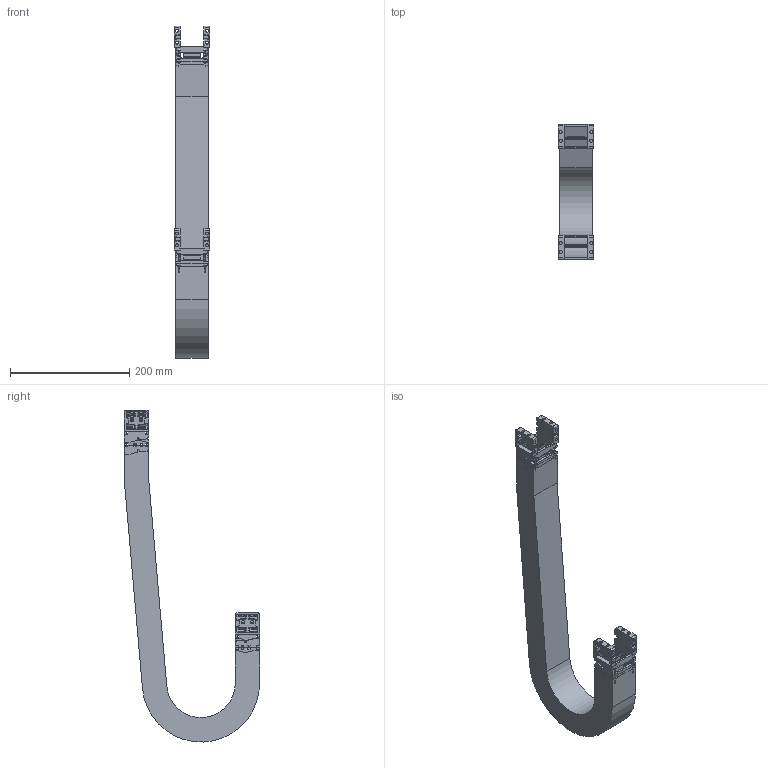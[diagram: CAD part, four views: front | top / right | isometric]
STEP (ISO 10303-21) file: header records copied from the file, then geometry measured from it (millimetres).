
FILE_DESCRIPTION((''),'2;1');
FILE_NAME('KST-30040-075_ASM','2017-12-05T',('KUNI004K'),(''),'PRO/ENGINEER BY PARAMETRIC TECHNOLOGY CORPORATION, 2015200','PRO/ENGINEER BY PARAMETRIC TECHNOLOGY CORPORATION, 2015200','');
FILE_SCHEMA(('AUTOMOTIVE_DESIGN { 1 0 10303 214 1 1 1 1 }'));
Length unit declared in the file: millimetre
Products named in the file (13): 30FBR; 30FBL; 25040C; 30FB_W040_ASM; 30075R; 30075L; 25040H; KST30040-075_1_ASM; KST30040_R75_BODY; 30MBR; 30MBL; 30MB_W040_ASM; KST-30040-075_ASM
Assembly tree (19 placements, depth 3):
  KST-30040-075_ASM
    30FB_W040_ASM
      30FBR
      30FBL
      25040C  x2
    KST30040-075_1_ASM  x2
      30075R
      30075L
      25040C
      25040H
    KST30040_R75_BODY
    30MB_W040_ASM
      30MBR
      30MBL
      25040C  x2
Bounding box: 60 x 227 x 557.21 mm (x, y, z)
Volume: 811142 mm3; surface area: 357015.5 mm2
Topology: 21 solids, 21 shells, 2532 faces, 6950 edges, 4480 vertices
Faces by surface type: plane 1290, cylinder 898, bspline 216, torus 64, sphere 64
Entity records: 70608 total; most frequent: CARTESIAN_POINT 15704, ORIENTED_EDGE 7432, DIRECTION 6608, PRESENTATION_STYLE_ASSIGNMENT 5044, STYLED_ITEM 5044, CURVE_STYLE 3716, EDGE_CURVE 3716, VERTEX_POINT 2424
